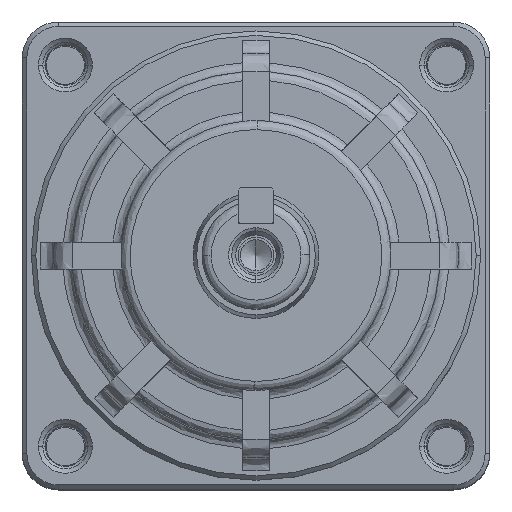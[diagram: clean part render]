
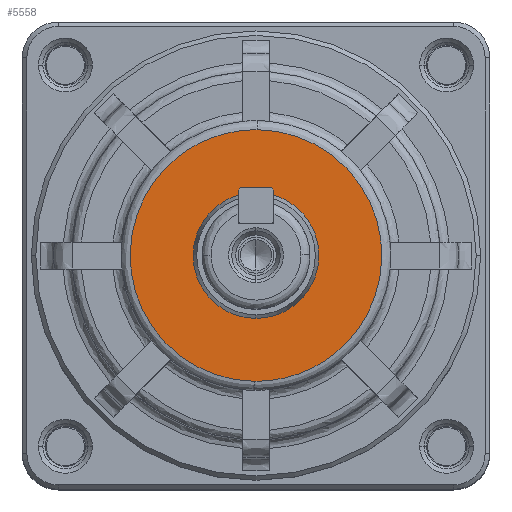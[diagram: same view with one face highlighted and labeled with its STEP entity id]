
A CAD part, top view. The second image highlights one B-rep face of the part: STEP entity #5558.
In plain terms, the highlighted planar face has unit normal (0, 0, 1).
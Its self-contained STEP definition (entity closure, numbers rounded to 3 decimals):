
#445 = VERTEX_POINT ( 'NONE', #19721 ) ;
#1448 = CARTESIAN_POINT ( 'NONE',  ( 0., 14., 35. ) ) ;
#1720 = CARTESIAN_POINT ( 'NONE',  ( 0., 14., 35. ) ) ;
#2443 = ORIENTED_EDGE ( 'NONE', *, *, #23948, .F. ) ;
#5012 = EDGE_LOOP ( 'NONE', ( #9049, #17275, #2443, #6291 ) ) ;
#5203 = DIRECTION ( 'NONE',  ( 0., 0., 1. ) ) ;
#5558 = ADVANCED_FACE ( 'NONE', ( #11825 ), #24854, .T. ) ;
#6090 = CARTESIAN_POINT ( 'NONE',  ( 0., -14., 35. ) ) ;
#6168 = CARTESIAN_POINT ( 'NONE',  ( 0.117, 14., 35. ) ) ;
#6291 = ORIENTED_EDGE ( 'NONE', *, *, #20310, .F. ) ;
#8185 = CARTESIAN_POINT ( 'NONE',  ( 27.884, 13.768, 35. ) ) ;
#9049 = ORIENTED_EDGE ( 'NONE', *, *, #25189, .F. ) ;
#9103 = CARTESIAN_POINT ( 'NONE',  ( -0.117, -14., 35. ) ) ;
#10179 = CARTESIAN_POINT ( 'NONE',  ( -27.884, -13.768, 35. ) ) ;
#10205 =( BOUNDED_CURVE ( )  B_SPLINE_CURVE ( 3, ( #21352, #8185, #17138, #6090 ),
 .UNSPECIFIED., .F., .F. ) 
 B_SPLINE_CURVE_WITH_KNOTS ( ( 4, 4 ),
 ( 0.003, 1. ),
 .UNSPECIFIED. ) 
 CURVE ( )  GEOMETRIC_REPRESENTATION_ITEM ( )  RATIONAL_B_SPLINE_CURVE ( ( 1., 0.336, 0.336, 1. ) ) 
 REPRESENTATION_ITEM ( '' )  );
#10352 =( BOUNDED_CURVE ( )  B_SPLINE_CURVE ( 3, ( #21775, #19284, #15829, #9103 ),
 .UNSPECIFIED., .F., .F. ) 
 B_SPLINE_CURVE_WITH_KNOTS ( ( 4, 4 ),
 ( 0., 0.003 ),
 .UNSPECIFIED. ) 
 CURVE ( )  GEOMETRIC_REPRESENTATION_ITEM ( )  RATIONAL_B_SPLINE_CURVE ( ( 1., 1., 1., 1. ) ) 
 REPRESENTATION_ITEM ( '' )  );
#10545 = CARTESIAN_POINT ( 'NONE',  ( 0.078, 14., 35. ) ) ;
#11825 = FACE_OUTER_BOUND ( 'NONE', #5012, .T. ) ;
#14600 = CARTESIAN_POINT ( 'NONE',  ( -27.768, 14., 35. ) ) ;
#14975 = CARTESIAN_POINT ( 'NONE',  ( 0.117, 14., 35. ) ) ;
#15027 = VERTEX_POINT ( 'NONE', #24933 ) ;
#15829 = CARTESIAN_POINT ( 'NONE',  ( -0.078, -14., 35. ) ) ;
#16818 = DIRECTION ( 'NONE',  ( 1., 0., 0. ) ) ;
#17138 = CARTESIAN_POINT ( 'NONE',  ( 27.768, -14., 35. ) ) ;
#17275 = ORIENTED_EDGE ( 'NONE', *, *, #28388, .F. ) ;
#18309 = VERTEX_POINT ( 'NONE', #6168 ) ;
#18356 = CARTESIAN_POINT ( 'NONE',  ( 0., 0., 35. ) ) ;
#19284 = CARTESIAN_POINT ( 'NONE',  ( -0.039, -14., 35. ) ) ;
#19290 = CARTESIAN_POINT ( 'NONE',  ( 0.039, 14., 35. ) ) ;
#19721 = CARTESIAN_POINT ( 'NONE',  ( 0., 14., 35. ) ) ;
#20310 = EDGE_CURVE ( 'NONE', #18309, #23127, #10205, .T. ) ;
#21352 = CARTESIAN_POINT ( 'NONE',  ( 0.117, 14., 35. ) ) ;
#21775 = CARTESIAN_POINT ( 'NONE',  ( 0., -14., 35. ) ) ;
#23127 = VERTEX_POINT ( 'NONE', #24288 ) ;
#23714 =( BOUNDED_CURVE ( )  B_SPLINE_CURVE ( 3, ( #27521, #10179, #14600, #1448 ),
 .UNSPECIFIED., .F., .F. ) 
 B_SPLINE_CURVE_WITH_KNOTS ( ( 4, 4 ),
 ( 0.003, 1. ),
 .UNSPECIFIED. ) 
 CURVE ( )  GEOMETRIC_REPRESENTATION_ITEM ( )  RATIONAL_B_SPLINE_CURVE ( ( 1., 0.336, 0.336, 1. ) ) 
 REPRESENTATION_ITEM ( '' )  );
#23948 = EDGE_CURVE ( 'NONE', #23127, #15027, #10352, .T. ) ;
#24288 = CARTESIAN_POINT ( 'NONE',  ( 0., -14., 35. ) ) ;
#24768 =( BOUNDED_CURVE ( )  B_SPLINE_CURVE ( 3, ( #1720, #19290, #10545, #14975 ),
 .UNSPECIFIED., .F., .F. ) 
 B_SPLINE_CURVE_WITH_KNOTS ( ( 4, 4 ),
 ( 0., 0.003 ),
 .UNSPECIFIED. ) 
 CURVE ( )  GEOMETRIC_REPRESENTATION_ITEM ( )  RATIONAL_B_SPLINE_CURVE ( ( 1., 1., 1., 1. ) ) 
 REPRESENTATION_ITEM ( '' )  );
#24776 = AXIS2_PLACEMENT_3D ( 'NONE', #18356, #5203, #16818 ) ;
#24854 = PLANE ( 'NONE',  #24776 ) ;
#24933 = CARTESIAN_POINT ( 'NONE',  ( -0.117, -14., 35. ) ) ;
#25189 = EDGE_CURVE ( 'NONE', #445, #18309, #24768, .T. ) ;
#27521 = CARTESIAN_POINT ( 'NONE',  ( -0.117, -14., 35. ) ) ;
#28388 = EDGE_CURVE ( 'NONE', #15027, #445, #23714, .T. ) ;
